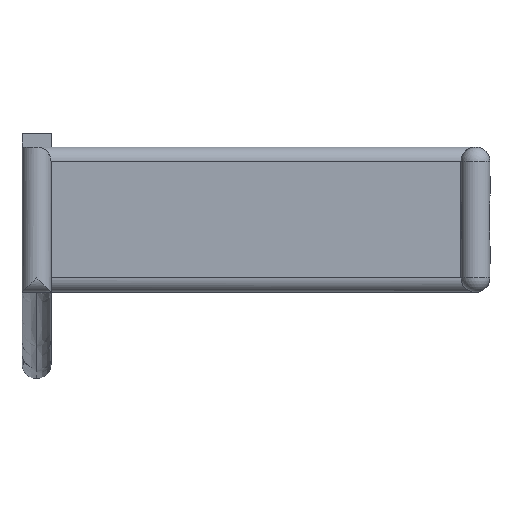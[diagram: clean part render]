
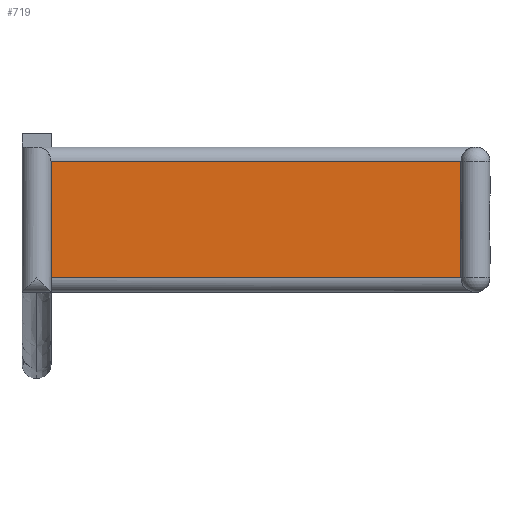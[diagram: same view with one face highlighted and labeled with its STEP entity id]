
A CAD part, front view. The second image highlights one B-rep face of the part: STEP entity #719.
In plain terms, the highlighted planar face has unit normal (0, -1, 0).
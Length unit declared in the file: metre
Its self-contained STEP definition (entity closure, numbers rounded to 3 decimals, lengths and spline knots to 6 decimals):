
#123=ORIENTED_EDGE('',*,*,#298,.F.);
#124=ORIENTED_EDGE('',*,*,#333,.T.);
#125=ORIENTED_EDGE('',*,*,#328,.T.);
#126=ORIENTED_EDGE('',*,*,#334,.T.);
#127=ORIENTED_EDGE('',*,*,#313,.F.);
#128=ORIENTED_EDGE('',*,*,#335,.F.);
#298=EDGE_CURVE('',#405,#406,#469,.T.);
#313=EDGE_CURVE('',#420,#415,#478,.T.);
#328=EDGE_CURVE('',#434,#435,#491,.T.);
#333=EDGE_CURVE('',#405,#434,#495,.T.);
#334=EDGE_CURVE('',#435,#415,#496,.F.);
#335=EDGE_CURVE('',#406,#420,#497,.F.);
#405=VERTEX_POINT('',#1088);
#406=VERTEX_POINT('',#1090);
#415=VERTEX_POINT('',#1111);
#420=VERTEX_POINT('',#1120);
#434=VERTEX_POINT('',#1154);
#435=VERTEX_POINT('',#1155);
#469=LINE('',#1089,#535);
#478=LINE('',#1121,#544);
#491=LINE('',#1153,#557);
#495=LINE('',#1163,#561);
#496=LINE('',#1164,#562);
#497=LINE('',#1165,#563);
#535=VECTOR('',#852,1.);
#544=VECTOR('',#877,1.);
#557=VECTOR('',#902,1.);
#561=VECTOR('',#910,1.);
#562=VECTOR('',#911,1.);
#563=VECTOR('',#912,1.);
#602=EDGE_LOOP('',(#123,#124,#125,#126,#127,#128));
#650=FACE_BOUND('',#602,.T.);
#698=PLANE('',#784);
#719=ADVANCED_FACE('',(#650),#698,.T.);
#784=AXIS2_PLACEMENT_3D('',#1162,#908,#909);
#852=DIRECTION('',(0.,0.,-1.));
#877=DIRECTION('',(0.,0.,-1.));
#902=DIRECTION('',(0.,0.,-1.));
#908=DIRECTION('',(0.,-1.,0.));
#909=DIRECTION('',(1.,0.,0.));
#910=DIRECTION('',(-1.,0.,0.));
#911=DIRECTION('',(-1.,0.,0.));
#912=DIRECTION('',(0.,0.,1.));
#1088=CARTESIAN_POINT('',(0.028199,0.016963,0.009));
#1089=CARTESIAN_POINT('',(0.028199,0.016963,0.01));
#1090=CARTESIAN_POINT('',(0.028199,0.016963,0.007033));
#1111=CARTESIAN_POINT('',(0.028199,0.016963,0.001));
#1120=CARTESIAN_POINT('',(0.028199,0.016963,0.002829));
#1121=CARTESIAN_POINT('',(0.028199,0.016963,0.01));
#1153=CARTESIAN_POINT('',(-0.000001,0.016963,0.01));
#1154=CARTESIAN_POINT('',(-0.000001,0.016963,0.009));
#1155=CARTESIAN_POINT('',(-0.000001,0.016963,0.001));
#1162=CARTESIAN_POINT('',(0.014099,0.016963,0.01));
#1163=CARTESIAN_POINT('',(0.014099,0.016963,0.009));
#1164=CARTESIAN_POINT('',(0.028199,0.016963,0.001));
#1165=CARTESIAN_POINT('',(0.0282,0.016963,0.004931));
